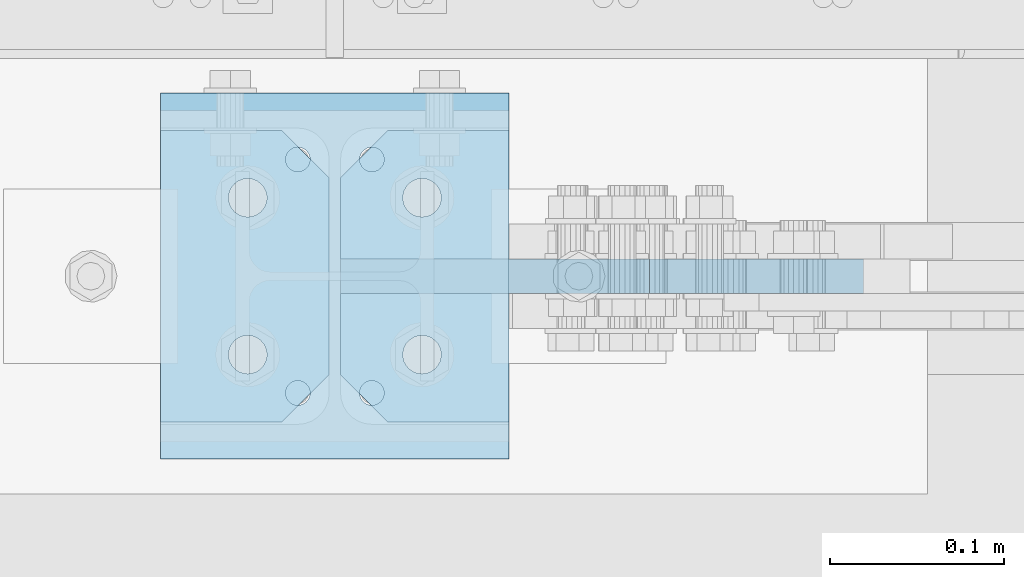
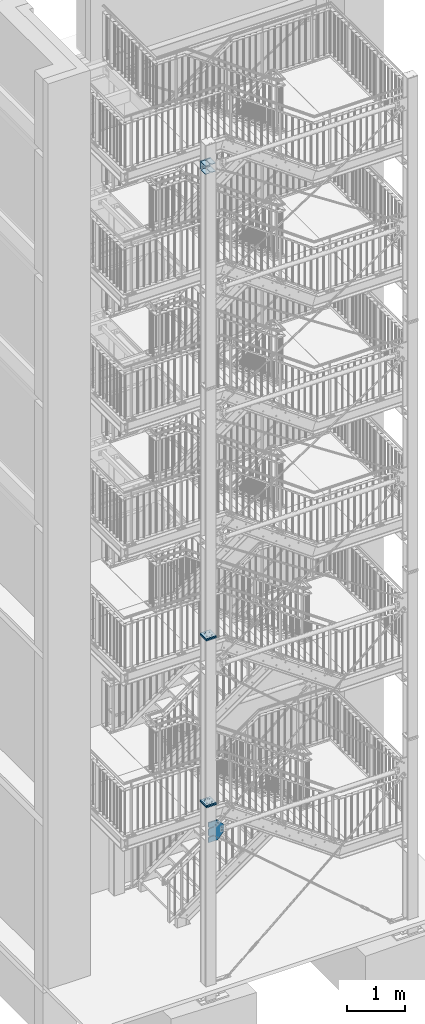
# One storey, part 153 of 825: 10 plates, 56 openings.
"""IFC2X3 building model written with IfcOpenShell, lengths in millimetres."""

from ifc_helpers import new_model, entity, si_unit, converted_unit, point, frame, frame_2d, origin, origin_with_axes, origin_2d_with_axis, place, context, project, spatial, polyline, circle_curve, line_curve, trimmed, segment, composite_curve, circle, outline, extrude, material, layer, layer_set, element, save


model = new_model("IFC2X3")

# Units and contexts
model_context = context("Model", 3, precision=1e-09, world=origin_with_axes())
ifc_project = project(units=[si_unit("LENGTHUNIT", "METRE", prefix="MILLI"), si_unit("AREAUNIT", "SQUARE_METRE"), si_unit("VOLUMEUNIT", "CUBIC_METRE"), converted_unit("PLANEANGLEUNIT", "DEGREE", entity("IfcPlaneAngleMeasure", 0.01745329), si_unit("PLANEANGLEUNIT", "RADIAN"), dimensions=[0, 0, 0, 0, 0, 0, 0])], contexts=[model_context])

# Site, building, storey
site_placement = place(None, origin_with_axes())
site = spatial("IfcSite", under=ifc_project, at=site_placement, Name="Cnopf'sche Kinderklinik", CompositionType="ELEMENT")
building_placement = place(site_placement, origin_with_axes())
building = spatial("IfcBuilding", under=site, at=building_placement, Name="Struktur 1", CompositionType="ELEMENT")
storey_placement = place(building_placement, origin_with_axes())
storey = spatial("IfcBuildingStorey", under=building, at=storey_placement, Name="Default Storey", CompositionType="ELEMENT", Elevation=0.0)

# Plate, openings
ifc_material = material(Name="S235JR")
ifc_layer_1 = layer(ifc_material, 25.0)
ifc_layer_set_1 = layer_set([ifc_layer_1], Name="S235JR")
plate_1_placement = place(None, frame((4856.713402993, 4366.736971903, 4150.0), z_axis=(0.0, 0.0, -1.0), x_axis=(0.0, 1.0, 0.0)))
plate_1 = element("IfcPlate", 1, at=plate_1_placement, inside=storey, material=ifc_layer_set_1, Name="Endplate#1", ObjectType="Endplate#1", context=model_context, shape_type="SweptSolid", body=[
    extrude(outline(polyline([(-105.0, -100.0), (105.0, -100.0), (105.0, 100.0), (-105.0, 100.0), (-105.0, -100.0)])), origin_with_axes(), (0.0, 0.0, 1.0), 25.0),
])
opening_1_placement = place(plate_1_placement, frame((67.0, 21.25, -0.5), z_axis=(0.0, 0.0, 1.0), x_axis=(1.0, 0.0, 0.0)))
element("IfcOpeningElement", 2, at=opening_1_placement, cuts=plate_1, ObjectType="Opening", context=model_context, shape_type="SweptSolid", body=[
    extrude(circle(Radius=7.001, at=origin_2d_with_axis()), origin(), (0.0, 0.0, 1.0), 26.0),
])
opening_2_placement = place(plate_1_placement, frame((-67.0, 21.25, -0.5), z_axis=(0.0, 0.0, 1.0), x_axis=(1.0, 0.0, 0.0)))
element("IfcOpeningElement", 3, at=opening_2_placement, cuts=plate_1, ObjectType="Opening", context=model_context, shape_type="SweptSolid", body=[
    extrude(circle(Radius=7.001, at=origin_2d_with_axis()), origin(), (0.0, 0.0, 1.0), 26.0),
])
opening_3_placement = place(plate_1_placement, frame((-67.0, -21.25, -0.5), z_axis=(0.0, 0.0, 1.0), x_axis=(1.0, 0.0, 0.0)))
element("IfcOpeningElement", 4, at=opening_3_placement, cuts=plate_1, ObjectType="Opening", context=model_context, shape_type="SweptSolid", body=[
    extrude(circle(Radius=7.001, at=origin_2d_with_axis()), origin(), (0.0, 0.0, 1.0), 26.0),
])
opening_4_placement = place(plate_1_placement, frame((67.0, -21.25, -0.5), z_axis=(0.0, 0.0, 1.0), x_axis=(1.0, 0.0, 0.0)))
element("IfcOpeningElement", 5, at=opening_4_placement, cuts=plate_1, ObjectType="Opening", context=model_context, shape_type="SweptSolid", body=[
    extrude(circle(Radius=7.001, at=origin_2d_with_axis()), origin(), (0.0, 0.0, 1.0), 26.0),
])
opening_5_placement = place(plate_1_placement, frame((45.0, -38.999, 25.5), z_axis=(0.0, 0.0, 1.0), x_axis=(1.0, 0.0, 0.0)))
element("IfcOpeningElement", 6, at=opening_5_placement, cuts=plate_1, ObjectType="Opening", context=model_context, shape_type="SweptSolid", body=[
    extrude(circle(Radius=11.001, at=frame_2d((0.0, -11.001), x_axis=(1.0, 0.0))), origin(), (0.0, 0.0, -1.0), 26.0),
])
opening_6_placement = place(plate_1_placement, frame((-45.0, -38.999, 25.5), z_axis=(0.0, 0.0, 1.0), x_axis=(1.0, 0.0, 0.0)))
element("IfcOpeningElement", 7, at=opening_6_placement, cuts=plate_1, ObjectType="Opening", context=model_context, shape_type="SweptSolid", body=[
    extrude(circle(Radius=11.001, at=frame_2d((0.0, -11.001), x_axis=(1.0, 0.0))), origin(), (0.0, 0.0, -1.0), 26.0),
])
opening_7_placement = place(plate_1_placement, frame((45.0, 61.001, 25.5), z_axis=(0.0, 0.0, 1.0), x_axis=(1.0, 0.0, 0.0)))
element("IfcOpeningElement", 8, at=opening_7_placement, cuts=plate_1, ObjectType="Opening", context=model_context, shape_type="SweptSolid", body=[
    extrude(circle(Radius=11.001, at=frame_2d((0.0, -11.001), x_axis=(1.0, 0.0))), origin(), (0.0, 0.0, -1.0), 26.0),
])
opening_8_placement = place(plate_1_placement, frame((-45.0, 61.001, 25.5), z_axis=(0.0, 0.0, 1.0), x_axis=(1.0, 0.0, 0.0)))
element("IfcOpeningElement", 9, at=opening_8_placement, cuts=plate_1, ObjectType="Opening", context=model_context, shape_type="SweptSolid", body=[
    extrude(circle(Radius=11.001, at=frame_2d((0.0, -11.001), x_axis=(1.0, 0.0))), origin(), (0.0, 0.0, -1.0), 26.0),
])

plate_2_placement = place(None, frame((4856.713402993, 4366.736971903, 4175.0), z_axis=(0.0, 0.0, -1.0), x_axis=(0.0, 1.0, 0.0)))
plate_2 = element("IfcPlate", 10, at=plate_2_placement, inside=storey, material=ifc_layer_set_1, Name="Endplate#2", ObjectType="Endplate#2", context=model_context, shape_type="SweptSolid", body=[
    extrude(outline(polyline([(-105.0, -100.0), (105.0, -100.0), (105.0, 100.0), (-105.0, 100.0), (-105.0, -100.0)])), origin_with_axes(), (0.0, 0.0, 1.0), 25.0),
])
opening_9_placement = place(plate_2_placement, frame((67.0, 21.25, 25.5), z_axis=(0.0, 0.0, -1.0), x_axis=(-1.0, 0.0, 0.0)))
element("IfcOpeningElement", 11, at=opening_9_placement, cuts=plate_2, ObjectType="Opening", context=model_context, shape_type="SweptSolid", body=[
    extrude(circle(Radius=7.001, at=origin_2d_with_axis()), origin(), (0.0, 0.0, 1.0), 26.0),
])
opening_10_placement = place(plate_2_placement, frame((-67.0, 21.25, 25.5), z_axis=(0.0, 0.0, -1.0), x_axis=(-1.0, 0.0, 0.0)))
element("IfcOpeningElement", 12, at=opening_10_placement, cuts=plate_2, ObjectType="Opening", context=model_context, shape_type="SweptSolid", body=[
    extrude(circle(Radius=7.001, at=origin_2d_with_axis()), origin(), (0.0, 0.0, 1.0), 26.0),
])
opening_11_placement = place(plate_2_placement, frame((-67.0, -21.25, 25.5), z_axis=(0.0, 0.0, -1.0), x_axis=(-1.0, 0.0, 0.0)))
element("IfcOpeningElement", 13, at=opening_11_placement, cuts=plate_2, ObjectType="Opening", context=model_context, shape_type="SweptSolid", body=[
    extrude(circle(Radius=7.001, at=origin_2d_with_axis()), origin(), (0.0, 0.0, 1.0), 26.0),
])
opening_12_placement = place(plate_2_placement, frame((67.0, -21.25, 25.5), z_axis=(0.0, 0.0, -1.0), x_axis=(-1.0, 0.0, 0.0)))
element("IfcOpeningElement", 14, at=opening_12_placement, cuts=plate_2, ObjectType="Opening", context=model_context, shape_type="SweptSolid", body=[
    extrude(circle(Radius=7.001, at=origin_2d_with_axis()), origin(), (0.0, 0.0, 1.0), 26.0),
])
opening_13_placement = place(plate_2_placement, frame((45.0, 61.001, 25.5), z_axis=(0.0, 0.0, 1.0), x_axis=(1.0, 0.0, 0.0)))
element("IfcOpeningElement", 15, at=opening_13_placement, cuts=plate_2, ObjectType="Opening", context=model_context, shape_type="SweptSolid", body=[
    extrude(circle(Radius=11.001, at=frame_2d((0.0, -11.001), x_axis=(1.0, 0.0))), origin(), (0.0, 0.0, -1.0), 26.0),
])
opening_14_placement = place(plate_2_placement, frame((-45.0, 61.001, 25.5), z_axis=(0.0, 0.0, 1.0), x_axis=(1.0, 0.0, 0.0)))
element("IfcOpeningElement", 16, at=opening_14_placement, cuts=plate_2, ObjectType="Opening", context=model_context, shape_type="SweptSolid", body=[
    extrude(circle(Radius=11.001, at=frame_2d((0.0, -11.001), x_axis=(1.0, 0.0))), origin(), (0.0, 0.0, -1.0), 26.0),
])
opening_15_placement = place(plate_2_placement, frame((45.0, -38.999, 25.5), z_axis=(0.0, 0.0, 1.0), x_axis=(1.0, 0.0, 0.0)))
element("IfcOpeningElement", 17, at=opening_15_placement, cuts=plate_2, ObjectType="Opening", context=model_context, shape_type="SweptSolid", body=[
    extrude(circle(Radius=11.001, at=frame_2d((0.0, -11.001), x_axis=(1.0, 0.0))), origin(), (0.0, 0.0, -1.0), 26.0),
])
opening_16_placement = place(plate_2_placement, frame((-45.0, -38.999, 25.5), z_axis=(0.0, 0.0, 1.0), x_axis=(1.0, 0.0, 0.0)))
element("IfcOpeningElement", 18, at=opening_16_placement, cuts=plate_2, ObjectType="Opening", context=model_context, shape_type="SweptSolid", body=[
    extrude(circle(Radius=11.001, at=frame_2d((0.0, -11.001), x_axis=(1.0, 0.0))), origin(), (0.0, 0.0, -1.0), 26.0),
])

plate_3_placement = place(None, frame((4856.713402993, 4366.736971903, 7650.0), z_axis=(0.0, 0.0, -1.0), x_axis=(0.0, 1.0, 0.0)))
plate_3 = element("IfcPlate", 19, at=plate_3_placement, inside=storey, material=ifc_layer_set_1, Name="Endplate#1", ObjectType="Endplate#1", context=model_context, shape_type="SweptSolid", body=[
    extrude(outline(polyline([(-105.0, -100.0), (105.0, -100.0), (105.0, 100.0), (-105.0, 100.0), (-105.0, -100.0)])), origin_with_axes(), (0.0, 0.0, 1.0), 25.0),
])
opening_17_placement = place(plate_3_placement, frame((67.0, 21.25, -0.5), z_axis=(0.0, 0.0, 1.0), x_axis=(1.0, 0.0, 0.0)))
element("IfcOpeningElement", 20, at=opening_17_placement, cuts=plate_3, ObjectType="Opening", context=model_context, shape_type="SweptSolid", body=[
    extrude(circle(Radius=7.001, at=origin_2d_with_axis()), origin(), (0.0, 0.0, 1.0), 26.0),
])
opening_18_placement = place(plate_3_placement, frame((-67.0, 21.25, -0.5), z_axis=(0.0, 0.0, 1.0), x_axis=(1.0, 0.0, 0.0)))
element("IfcOpeningElement", 21, at=opening_18_placement, cuts=plate_3, ObjectType="Opening", context=model_context, shape_type="SweptSolid", body=[
    extrude(circle(Radius=7.001, at=origin_2d_with_axis()), origin(), (0.0, 0.0, 1.0), 26.0),
])
opening_19_placement = place(plate_3_placement, frame((-67.0, -21.25, -0.5), z_axis=(0.0, 0.0, 1.0), x_axis=(1.0, 0.0, 0.0)))
element("IfcOpeningElement", 22, at=opening_19_placement, cuts=plate_3, ObjectType="Opening", context=model_context, shape_type="SweptSolid", body=[
    extrude(circle(Radius=7.001, at=origin_2d_with_axis()), origin(), (0.0, 0.0, 1.0), 26.0),
])
opening_20_placement = place(plate_3_placement, frame((67.0, -21.25, -0.5), z_axis=(0.0, 0.0, 1.0), x_axis=(1.0, 0.0, 0.0)))
element("IfcOpeningElement", 23, at=opening_20_placement, cuts=plate_3, ObjectType="Opening", context=model_context, shape_type="SweptSolid", body=[
    extrude(circle(Radius=7.001, at=origin_2d_with_axis()), origin(), (0.0, 0.0, 1.0), 26.0),
])
opening_21_placement = place(plate_3_placement, frame((45.0, 61.001, 25.5), z_axis=(0.0, 0.0, 1.0), x_axis=(1.0, 0.0, 0.0)))
element("IfcOpeningElement", 24, at=opening_21_placement, cuts=plate_3, ObjectType="Opening", context=model_context, shape_type="SweptSolid", body=[
    extrude(circle(Radius=11.001, at=frame_2d((0.0, -11.001), x_axis=(1.0, 0.0))), origin(), (0.0, 0.0, -1.0), 26.0),
])
opening_22_placement = place(plate_3_placement, frame((-45.0, 61.001, 25.5), z_axis=(0.0, 0.0, 1.0), x_axis=(1.0, 0.0, 0.0)))
element("IfcOpeningElement", 25, at=opening_22_placement, cuts=plate_3, ObjectType="Opening", context=model_context, shape_type="SweptSolid", body=[
    extrude(circle(Radius=11.001, at=frame_2d((0.0, -11.001), x_axis=(1.0, 0.0))), origin(), (0.0, 0.0, -1.0), 26.0),
])
opening_23_placement = place(plate_3_placement, frame((45.0, -38.999, 25.5), z_axis=(0.0, 0.0, 1.0), x_axis=(1.0, 0.0, 0.0)))
element("IfcOpeningElement", 26, at=opening_23_placement, cuts=plate_3, ObjectType="Opening", context=model_context, shape_type="SweptSolid", body=[
    extrude(circle(Radius=11.001, at=frame_2d((0.0, -11.001), x_axis=(1.0, 0.0))), origin(), (0.0, 0.0, -1.0), 26.0),
])
opening_24_placement = place(plate_3_placement, frame((-45.0, -38.999, 25.5), z_axis=(0.0, 0.0, 1.0), x_axis=(1.0, 0.0, 0.0)))
element("IfcOpeningElement", 27, at=opening_24_placement, cuts=plate_3, ObjectType="Opening", context=model_context, shape_type="SweptSolid", body=[
    extrude(circle(Radius=11.001, at=frame_2d((0.0, -11.001), x_axis=(1.0, 0.0))), origin(), (0.0, 0.0, -1.0), 26.0),
])

plate_4_placement = place(None, frame((4856.713402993, 4366.736971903, 7675.0), z_axis=(0.0, 0.0, -1.0), x_axis=(0.0, 1.0, 0.0)))
plate_4 = element("IfcPlate", 28, at=plate_4_placement, inside=storey, material=ifc_layer_set_1, Name="Endplate#2", ObjectType="Endplate#2", context=model_context, shape_type="SweptSolid", body=[
    extrude(outline(polyline([(-105.0, -100.0), (105.0, -100.0), (105.0, 100.0), (-105.0, 100.0), (-105.0, -100.0)])), origin_with_axes(), (0.0, 0.0, 1.0), 25.0),
])
opening_25_placement = place(plate_4_placement, frame((67.0, 21.25, 25.5), z_axis=(0.0, 0.0, -1.0), x_axis=(-1.0, 0.0, 0.0)))
element("IfcOpeningElement", 29, at=opening_25_placement, cuts=plate_4, ObjectType="Opening", context=model_context, shape_type="SweptSolid", body=[
    extrude(circle(Radius=7.001, at=origin_2d_with_axis()), origin(), (0.0, 0.0, 1.0), 26.0),
])
opening_26_placement = place(plate_4_placement, frame((-67.0, 21.25, 25.5), z_axis=(0.0, 0.0, -1.0), x_axis=(-1.0, 0.0, 0.0)))
element("IfcOpeningElement", 30, at=opening_26_placement, cuts=plate_4, ObjectType="Opening", context=model_context, shape_type="SweptSolid", body=[
    extrude(circle(Radius=7.001, at=origin_2d_with_axis()), origin(), (0.0, 0.0, 1.0), 26.0),
])
opening_27_placement = place(plate_4_placement, frame((-67.0, -21.25, 25.5), z_axis=(0.0, 0.0, -1.0), x_axis=(-1.0, 0.0, 0.0)))
element("IfcOpeningElement", 31, at=opening_27_placement, cuts=plate_4, ObjectType="Opening", context=model_context, shape_type="SweptSolid", body=[
    extrude(circle(Radius=7.001, at=origin_2d_with_axis()), origin(), (0.0, 0.0, 1.0), 26.0),
])
opening_28_placement = place(plate_4_placement, frame((67.0, -21.25, 25.5), z_axis=(0.0, 0.0, -1.0), x_axis=(-1.0, 0.0, 0.0)))
element("IfcOpeningElement", 32, at=opening_28_placement, cuts=plate_4, ObjectType="Opening", context=model_context, shape_type="SweptSolid", body=[
    extrude(circle(Radius=7.001, at=origin_2d_with_axis()), origin(), (0.0, 0.0, 1.0), 26.0),
])
opening_29_placement = place(plate_4_placement, frame((45.0, 61.001, 25.5), z_axis=(0.0, 0.0, 1.0), x_axis=(1.0, 0.0, 0.0)))
element("IfcOpeningElement", 33, at=opening_29_placement, cuts=plate_4, ObjectType="Opening", context=model_context, shape_type="SweptSolid", body=[
    extrude(circle(Radius=11.001, at=frame_2d((0.0, -11.001), x_axis=(1.0, 0.0))), origin(), (0.0, 0.0, -1.0), 26.0),
])
opening_30_placement = place(plate_4_placement, frame((-45.0, 61.001, 25.5), z_axis=(0.0, 0.0, 1.0), x_axis=(1.0, 0.0, 0.0)))
element("IfcOpeningElement", 34, at=opening_30_placement, cuts=plate_4, ObjectType="Opening", context=model_context, shape_type="SweptSolid", body=[
    extrude(circle(Radius=11.001, at=frame_2d((0.0, -11.001), x_axis=(1.0, 0.0))), origin(), (0.0, 0.0, -1.0), 26.0),
])
opening_31_placement = place(plate_4_placement, frame((45.0, -38.999, 25.5), z_axis=(0.0, 0.0, 1.0), x_axis=(1.0, 0.0, 0.0)))
element("IfcOpeningElement", 35, at=opening_31_placement, cuts=plate_4, ObjectType="Opening", context=model_context, shape_type="SweptSolid", body=[
    extrude(circle(Radius=11.001, at=frame_2d((0.0, -11.001), x_axis=(1.0, 0.0))), origin(), (0.0, 0.0, -1.0), 26.0),
])
opening_32_placement = place(plate_4_placement, frame((-45.0, -38.999, 25.5), z_axis=(0.0, 0.0, 1.0), x_axis=(1.0, 0.0, 0.0)))
element("IfcOpeningElement", 36, at=opening_32_placement, cuts=plate_4, ObjectType="Opening", context=model_context, shape_type="SweptSolid", body=[
    extrude(circle(Radius=11.001, at=frame_2d((0.0, -11.001), x_axis=(1.0, 0.0))), origin(), (0.0, 0.0, -1.0), 26.0),
])

ifc_layer_2 = layer(ifc_material, 10.0)
ifc_layer_set_2 = layer_set([ifc_layer_2], Name="S235JR")
plate_5_placement = place(None, frame((4856.713402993, 4471.736971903, 17498.999999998), z_axis=(0.0, -1.0, 0.0), x_axis=(0.0, 0.0, -1.0)))
plate_5 = element("IfcPlate", 37, at=plate_5_placement, inside=storey, material=ifc_layer_set_2, Name="Endplate", ObjectType="Endplate", context=model_context, shape_type="SweptSolid", body=[
    extrude(outline(polyline([(-90.0, -100.0), (90.0, -100.0), (90.0, 100.0), (-90.0, 100.0), (-90.0, -100.0)])), origin_with_axes(), (0.0, 0.0, 1.0), 10.0),
])
opening_33_placement = place(plate_5_placement, frame((-67.0, -21.25, 10.5), z_axis=(0.0, 0.0, -1.0), x_axis=(1.0, 0.0, 0.0)))
element("IfcOpeningElement", 38, at=opening_33_placement, cuts=plate_5, ObjectType="Opening", context=model_context, shape_type="SweptSolid", body=[
    extrude(circle(Radius=6.001, at=origin_2d_with_axis()), origin(), (0.0, 0.0, 1.0), 11.0),
])
opening_34_placement = place(plate_5_placement, frame((67.0, -21.25, 10.5), z_axis=(0.0, 0.0, -1.0), x_axis=(1.0, 0.0, 0.0)))
element("IfcOpeningElement", 39, at=opening_34_placement, cuts=plate_5, ObjectType="Opening", context=model_context, shape_type="SweptSolid", body=[
    extrude(circle(Radius=6.001, at=origin_2d_with_axis()), origin(), (0.0, 0.0, 1.0), 11.0),
])
opening_35_placement = place(plate_5_placement, frame((67.0, 21.25, 10.5), z_axis=(0.0, 0.0, -1.0), x_axis=(1.0, 0.0, 0.0)))
element("IfcOpeningElement", 40, at=opening_35_placement, cuts=plate_5, ObjectType="Opening", context=model_context, shape_type="SweptSolid", body=[
    extrude(circle(Radius=6.001, at=origin_2d_with_axis()), origin(), (0.0, 0.0, 1.0), 11.0),
])
opening_36_placement = place(plate_5_placement, frame((-67.0, 21.25, 10.5), z_axis=(0.0, 0.0, -1.0), x_axis=(1.0, 0.0, 0.0)))
element("IfcOpeningElement", 41, at=opening_36_placement, cuts=plate_5, ObjectType="Opening", context=model_context, shape_type="SweptSolid", body=[
    extrude(circle(Radius=6.001, at=origin_2d_with_axis()), origin(), (0.0, 0.0, 1.0), 11.0),
])
opening_37_placement = place(plate_5_placement, frame((-45.0, -60.0, 10.5), z_axis=(0.0, 0.0, -1.0), x_axis=(0.0, -1.0, 0.0)))
element("IfcOpeningElement", 42, at=opening_37_placement, cuts=plate_5, ObjectType="Opening", context=model_context, shape_type="SweptSolid", body=[
    extrude(circle(Radius=9.001, at=origin_2d_with_axis()), origin(), (0.0, 0.0, 1.0), 11.0),
])
opening_38_placement = place(plate_5_placement, frame((45.0, 60.0, 10.5), z_axis=(0.0, 0.0, -1.0), x_axis=(0.0, 1.0, 0.0)))
element("IfcOpeningElement", 43, at=opening_38_placement, cuts=plate_5, ObjectType="Opening", context=model_context, shape_type="SweptSolid", body=[
    extrude(circle(Radius=9.001, at=origin_2d_with_axis()), origin(), (0.0, 0.0, 1.0), 11.0),
])
opening_39_placement = place(plate_5_placement, frame((45.0, -60.0, 10.5), z_axis=(0.0, 0.0, -1.0), x_axis=(0.0, -1.0, 0.0)))
element("IfcOpeningElement", 44, at=opening_39_placement, cuts=plate_5, ObjectType="Opening", context=model_context, shape_type="SweptSolid", body=[
    extrude(circle(Radius=9.001, at=origin_2d_with_axis()), origin(), (0.0, 0.0, 1.0), 11.0),
])
opening_40_placement = place(plate_5_placement, frame((-45.0, 60.0, 10.5), z_axis=(0.0, 0.0, -1.0), x_axis=(0.0, 1.0, 0.0)))
element("IfcOpeningElement", 45, at=opening_40_placement, cuts=plate_5, ObjectType="Opening", context=model_context, shape_type="SweptSolid", body=[
    extrude(circle(Radius=9.001, at=origin_2d_with_axis()), origin(), (0.0, 0.0, 1.0), 11.0),
])

plate_6_placement = place(None, frame((4956.713402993, 4450.236971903, 17573.999999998), z_axis=(0.0, 0.0, 1.0), x_axis=(-1.0, 0.0, 0.0)))
plate_6 = element("IfcPlate", 46, at=plate_6_placement, inside=storey, material=ifc_layer_set_2, Name="Stiffener#1", ObjectType="Stiffener#1", context=model_context, shape_type="SweptSolid", body=[
    extrude(outline(polyline([(0.0, 0.0), (96.75, 0.0), (96.75, 167.0), (0.0, 167.0), (0.0, 0.0)])), origin_with_axes(), (0.0, 0.0, 1.0), 10.0),
])
opening_41_placement = place(plate_6_placement, frame((0.0, 0.0, -0.01), z_axis=(0.0, 0.0, 1.0), x_axis=(1.0, 0.0, 0.0)))
element("IfcOpeningElement", 47, at=opening_41_placement, cuts=plate_6, ObjectType="Opening", context=model_context, shape_type="SweptSolid", body=[
    extrude(outline(polyline([(96.75, 167.0), (69.75, 167.0), (96.75, 140.0), (96.75, 167.0)])), origin(), (0.0, 0.0, 1.0), 10.02),
])
opening_42_placement = place(plate_6_placement, frame((0.0, 0.0, -0.01), z_axis=(0.0, 0.0, 1.0), x_axis=(1.0, 0.0, 0.0)))
element("IfcOpeningElement", 48, at=opening_42_placement, cuts=plate_6, ObjectType="Opening", context=model_context, shape_type="SweptSolid", body=[
    extrude(outline(polyline([(96.75, 0.0), (96.75, 27.0), (69.75, 0.0), (96.75, 0.0)])), origin(), (0.0, 0.0, 1.0), 10.02),
])

plate_7_placement = place(None, frame((4853.463402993, 4450.236971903, 17573.999999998), z_axis=(0.0, 0.0, 1.0), x_axis=(-1.0, 0.0, 0.0)))
plate_7 = element("IfcPlate", 49, at=plate_7_placement, inside=storey, material=ifc_layer_set_2, Name="Stiffener#2", ObjectType="Stiffener#2", context=model_context, shape_type="SweptSolid", body=[
    extrude(outline(polyline([(0.0, 0.0), (96.75, 0.0), (96.75, 167.0), (0.0, 167.0), (0.0, 0.0)])), origin_with_axes(), (0.0, 0.0, 1.0), 10.0),
])
opening_43_placement = place(plate_7_placement, frame((0.0, 0.0, -0.01), z_axis=(0.0, 0.0, 1.0), x_axis=(1.0, 0.0, 0.0)))
element("IfcOpeningElement", 50, at=opening_43_placement, cuts=plate_7, ObjectType="Opening", context=model_context, shape_type="SweptSolid", body=[
    extrude(outline(polyline([(0.0, 167.0), (0.0, 140.0), (27.0, 167.0), (0.0, 167.0)])), origin(), (0.0, 0.0, 1.0), 10.02),
])
opening_44_placement = place(plate_7_placement, frame((0.0, 0.0, -0.01), z_axis=(0.0, 0.0, 1.0), x_axis=(1.0, 0.0, 0.0)))
element("IfcOpeningElement", 51, at=opening_44_placement, cuts=plate_7, ObjectType="Opening", context=model_context, shape_type="SweptSolid", body=[
    extrude(outline(polyline([(0.0, 0.0), (27.0, 0.0), (0.0, 27.0), (0.0, 0.0)])), origin(), (0.0, 0.0, 1.0), 10.02),
])

plate_8_placement = place(None, frame((4859.963402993, 4450.236971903, 17413.999999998), z_axis=(0.0, 0.0, -1.0), x_axis=(1.0, 0.0, 0.0)))
plate_8 = element("IfcPlate", 52, at=plate_8_placement, inside=storey, material=ifc_layer_set_2, Name="Stiffener#3", ObjectType="Stiffener#3", context=model_context, shape_type="SweptSolid", body=[
    extrude(outline(polyline([(0.0, 0.0), (96.75, 0.0), (96.75, 167.0), (0.0, 167.0), (0.0, 0.0)])), origin_with_axes(), (0.0, 0.0, 1.0), 10.0),
])
opening_45_placement = place(plate_8_placement, frame((0.0, 0.0, -0.01), z_axis=(0.0, 0.0, 1.0), x_axis=(1.0, 0.0, 0.0)))
element("IfcOpeningElement", 53, at=opening_45_placement, cuts=plate_8, ObjectType="Opening", context=model_context, shape_type="SweptSolid", body=[
    extrude(outline(polyline([(0.0, 167.0), (0.0, 140.0), (27.0, 167.0), (0.0, 167.0)])), origin(), (0.0, 0.0, 1.0), 10.02),
])
opening_46_placement = place(plate_8_placement, frame((0.0, 0.0, -0.01), z_axis=(0.0, 0.0, 1.0), x_axis=(1.0, 0.0, 0.0)))
element("IfcOpeningElement", 54, at=opening_46_placement, cuts=plate_8, ObjectType="Opening", context=model_context, shape_type="SweptSolid", body=[
    extrude(outline(polyline([(0.0, 0.0), (27.0, 0.0), (0.0, 27.0), (0.0, 0.0)])), origin(), (0.0, 0.0, 1.0), 10.02),
])

plate_9_placement = place(None, frame((4756.713402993, 4450.236971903, 17413.999999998), z_axis=(0.0, 0.0, -1.0), x_axis=(1.0, 0.0, 0.0)))
plate_9 = element("IfcPlate", 55, at=plate_9_placement, inside=storey, material=ifc_layer_set_2, Name="Stiffener#4", ObjectType="Stiffener#4", context=model_context, shape_type="SweptSolid", body=[
    extrude(outline(polyline([(0.0, 0.0), (96.75, 0.0), (96.75, 167.0), (0.0, 167.0), (0.0, 0.0)])), origin_with_axes(), (0.0, 0.0, 1.0), 10.0),
])
opening_47_placement = place(plate_9_placement, frame((0.0, 0.0, -0.01), z_axis=(0.0, 0.0, 1.0), x_axis=(1.0, 0.0, 0.0)))
element("IfcOpeningElement", 56, at=opening_47_placement, cuts=plate_9, ObjectType="Opening", context=model_context, shape_type="SweptSolid", body=[
    extrude(outline(polyline([(96.75, 167.0), (69.75, 167.0), (96.75, 140.0), (96.75, 167.0)])), origin(), (0.0, 0.0, 1.0), 10.02),
])
opening_48_placement = place(plate_9_placement, frame((0.0, 0.0, -0.01), z_axis=(0.0, 0.0, 1.0), x_axis=(1.0, 0.0, 0.0)))
element("IfcOpeningElement", 57, at=opening_48_placement, cuts=plate_9, ObjectType="Opening", context=model_context, shape_type="SweptSolid", body=[
    extrude(outline(polyline([(96.75, 0.0), (96.75, 27.0), (69.75, 0.0), (96.75, 0.0)])), origin(), (0.0, 0.0, 1.0), 10.02),
])

ifc_layer_3 = layer(ifc_material, 20.0)
ifc_layer_set_3 = layer_set([ifc_layer_3], Name="S235JR")
plate_10_placement = place(None, frame((4859.963402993, 4356.736971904, 3302.430347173), z_axis=(0.0, 1.0, 0.0), x_axis=(0.0, 0.0, 1.0)))
plate_10 = element("IfcPlate", 58, at=plate_10_placement, inside=storey, material=ifc_layer_set_3, Name="-", ObjectType="-", context=model_context, shape_type="SweptSolid", body=[
    extrude(outline(polyline([(0.0, 0.0), (420.206365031, 0.0), (420.206365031, 177.249749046), (279.569648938, 300.0), (139.569648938, 300.0), (0.0, 181.139563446), (0.0, 0.0)])), origin_with_axes(), (0.0, 0.0, 1.0), 20.0),
])
opening_49_placement = place(plate_10_placement, frame((0.0, 0.0, -0.1), z_axis=(0.0, 0.0, 1.0), x_axis=(0.0, -1.0, 0.0)))
element("IfcOpeningElement", 59, at=opening_49_placement, cuts=plate_10, ObjectType="Opening", context=model_context, shape_type="SweptSolid", body=[
    extrude(outline(composite_curve([segment(trimmed(line_curve((20.001, 145.570652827), (-1.0, 0.0), 20.001414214), [point((20.001, 145.570652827))], [point((-0.000414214, 145.570652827))], True, "CARTESIAN"), True, "CONTINUOUS"), segment(trimmed(line_curve((-0.000414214, 145.570652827), (-0.707106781, -0.707106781), 28.284271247), [point((-0.000414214, 145.570652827))], [point((-20.000414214, 125.570652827))], True, "CARTESIAN"), True, "CONTINUOUS"), segment(trimmed(line_curve((-20.000414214, 125.570652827), (-1.0, 0.0), 77.749585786), [point((-20.000414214, 125.570652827))], [point((-97.75, 125.570652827))], True, "CARTESIAN"), True, "CONTINUOUS"), segment(trimmed(circle_curve(frame_2d((-97.75, 119.569652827), x_axis=(1.0, 0.0)), 6.001), [point((-97.75, 125.570652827))], [point((-97.75, 113.568652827))], True, "CARTESIAN"), True, "CONTINUOUS"), segment(trimmed(line_curve((-97.75, 113.568652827), (1.0, 0.0), 77.749585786), [point((-97.75, 113.568652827))], [point((-20.000414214, 113.568652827))], True, "CARTESIAN"), True, "CONTINUOUS"), segment(trimmed(line_curve((-20.000414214, 113.568652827), (0.707106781, -0.707106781), 28.284271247), [point((-20.000414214, 113.568652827))], [point((-0.000414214, 93.568652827))], True, "CARTESIAN"), True, "CONTINUOUS"), segment(trimmed(line_curve((-0.000414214, 93.568652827), (1.0, 0.0), 20.001414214), [point((-0.000414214, 93.568652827))], [point((20.001, 93.568652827))], True, "CARTESIAN"), True, "CONTINUOUS"), segment(trimmed(line_curve((20.001, 93.568652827), (0.0, 1.0), 52.002), [point((20.001, 93.568652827))], [point((20.001, 145.570652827))], True, "CARTESIAN"), True, "CONTINUOUS")], self_intersect=False)), origin(), (0.0, 0.0, 1.0), 20.2),
])
opening_50_placement = place(plate_10_placement, frame((0.0, 0.0, -0.1), z_axis=(0.0, 0.0, 1.0), x_axis=(0.0, -1.0, 0.0)))
element("IfcOpeningElement", 60, at=opening_50_placement, cuts=plate_10, ObjectType="Opening", context=model_context, shape_type="SweptSolid", body=[
    extrude(outline(composite_curve([segment(trimmed(line_curve((20.001, 325.570652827), (-1.0, 0.0), 20.001414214), [point((20.001, 325.570652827))], [point((-0.000414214, 325.570652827))], True, "CARTESIAN"), True, "CONTINUOUS"), segment(trimmed(line_curve((-0.000414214, 325.570652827), (-0.707106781, -0.707106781), 28.284271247), [point((-0.000414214, 325.570652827))], [point((-20.000414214, 305.570652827))], True, "CARTESIAN"), True, "CONTINUOUS"), segment(trimmed(line_curve((-20.000414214, 305.570652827), (-1.0, 0.0), 77.749584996), [point((-20.000414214, 305.570652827))], [point((-97.749999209, 305.570652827))], True, "CARTESIAN"), True, "CONTINUOUS"), segment(trimmed(circle_curve(frame_2d((-97.75, 299.569652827), x_axis=(1.0, 0.0)), 6.001), [point((-97.749999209, 305.570652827))], [point((-97.75, 293.568652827))], True, "CARTESIAN"), True, "CONTINUOUS"), segment(trimmed(line_curve((-97.75, 293.568652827), (1.0, 0.0), 77.749585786), [point((-97.75, 293.568652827))], [point((-20.000414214, 293.568652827))], True, "CARTESIAN"), True, "CONTINUOUS"), segment(trimmed(line_curve((-20.000414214, 293.568652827), (0.707106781, -0.707106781), 28.284271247), [point((-20.000414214, 293.568652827))], [point((-0.000414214, 273.568652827))], True, "CARTESIAN"), True, "CONTINUOUS"), segment(trimmed(line_curve((-0.000414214, 273.568652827), (1.0, 0.0), 20.001414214), [point((-0.000414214, 273.568652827))], [point((20.001, 273.568652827))], True, "CARTESIAN"), True, "CONTINUOUS"), segment(trimmed(line_curve((20.001, 273.568652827), (0.0, 1.0), 52.002), [point((20.001, 273.568652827))], [point((20.001, 325.570652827))], True, "CARTESIAN"), True, "CONTINUOUS")], self_intersect=False)), origin(), (0.0, 0.0, 1.0), 20.2),
])
opening_51_placement = place(plate_10_placement, frame((239.569648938, 269.000998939, 20.5), z_axis=(0.0, 0.0, 1.0), x_axis=(1.0, 0.0, 0.0)))
element("IfcOpeningElement", 61, at=opening_51_placement, cuts=plate_10, ObjectType="Opening", context=model_context, shape_type="SweptSolid", body=[
    extrude(circle(Radius=9.001, at=frame_2d((0.0, -9.001), x_axis=(1.0, 0.0))), origin(), (0.0, 0.0, -1.0), 21.0),
])
opening_52_placement = place(plate_10_placement, frame((179.569648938, 269.000998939, 20.5), z_axis=(0.0, 0.0, 1.0), x_axis=(1.0, 0.0, 0.0)))
element("IfcOpeningElement", 62, at=opening_52_placement, cuts=plate_10, ObjectType="Opening", context=model_context, shape_type="SweptSolid", body=[
    extrude(circle(Radius=9.001, at=frame_2d((0.0, -9.001), x_axis=(1.0, 0.0))), origin(), (0.0, 0.0, -1.0), 21.0),
])
opening_53_placement = place(plate_10_placement, frame((346.603005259, 154.971640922, 20.5), z_axis=(0.0, 0.0, -1.0), x_axis=(0.654679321, 0.755906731, 0.0)))
element("IfcOpeningElement", 63, at=opening_53_placement, cuts=plate_10, ObjectType="Opening", context=model_context, shape_type="SweptSolid", body=[
    extrude(circle(Radius=9.001, at=frame_2d((30.0, 0.0), x_axis=(1.0, 0.0))), origin(), (0.0, 0.0, 1.0), 21.0),
])
opening_54_placement = place(plate_10_placement, frame((346.603005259, 154.971640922, 20.5), z_axis=(0.0, 0.0, -1.0), x_axis=(0.654679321, 0.755906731, 0.0)))
element("IfcOpeningElement", 64, at=opening_54_placement, cuts=plate_10, ObjectType="Opening", context=model_context, shape_type="SweptSolid", body=[
    extrude(circle(Radius=9.001, at=frame_2d((-30.0, 0.0), x_axis=(1.0, 0.0))), origin(), (0.0, 0.0, 1.0), 21.0),
])
opening_55_placement = place(plate_10_placement, frame((58.040085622, 172.773623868, 20.5), z_axis=(0.0, 0.0, 1.0), x_axis=(1.0, 0.0, 0.0)))
element("IfcOpeningElement", 65, at=opening_55_placement, cuts=plate_10, ObjectType="Opening", context=model_context, shape_type="SweptSolid", body=[
    extrude(circle(Radius=9.001, at=frame_2d((-5.872329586, 6.821564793), x_axis=(1.0, 0.0))), origin(), (0.0, 0.0, -1.0), 21.0),
])
opening_56_placement = place(plate_10_placement, frame((97.18460014, 127.301577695, 20.5), z_axis=(0.0, 0.0, 1.0), x_axis=(1.0, 0.0, 0.0)))
element("IfcOpeningElement", 66, at=opening_56_placement, cuts=plate_10, ObjectType="Opening", context=model_context, shape_type="SweptSolid", body=[
    extrude(circle(Radius=9.001, at=frame_2d((-5.872329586, 6.821564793), x_axis=(1.0, 0.0))), origin(), (0.0, 0.0, -1.0), 21.0),
])

save(model, "model.ifc")
